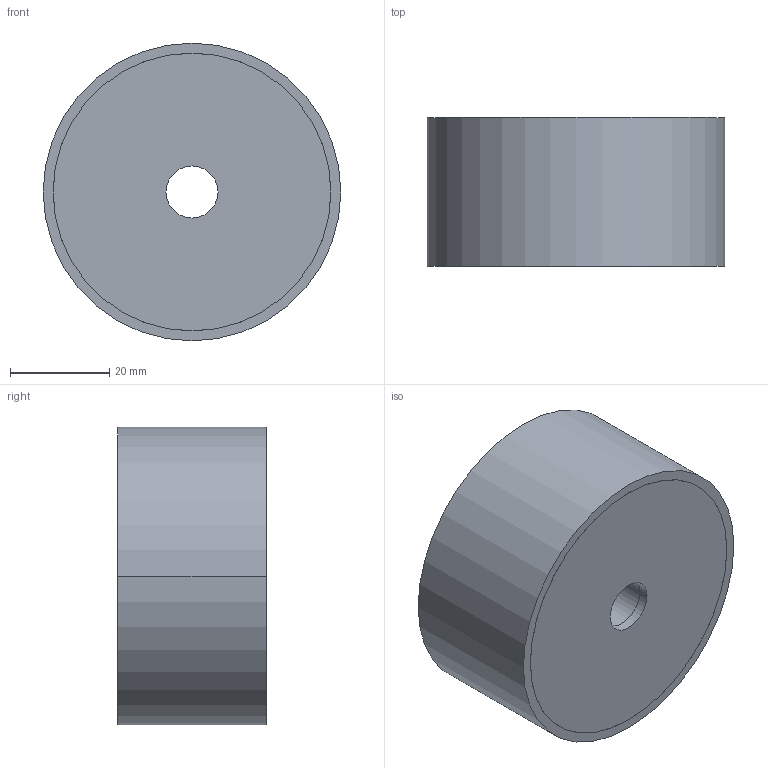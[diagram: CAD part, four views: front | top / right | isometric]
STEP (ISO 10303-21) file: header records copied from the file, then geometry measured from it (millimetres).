
FILE_DESCRIPTION (( 'STEP AP214' ), '1' );
FILE_NAME ('351-60-30-10,5-DD-70.step', '2025-07-23T10:11:51', ( '' ), ( '' ), 'SwSTEP 2.0', 'SolidWorks 2022', '' );
FILE_SCHEMA (( 'AUTOMOTIVE_DESIGN' ));
Length unit declared in the file: millimetre
Products named in the file (1): 351-60-30-10,5-DD-70
Bounding box: 60 x 30 x 60 mm (x, y, z)
Volume: 82225.3 mm3; surface area: 12134.5 mm2
Topology: 1 solids, 1 shells, 30 faces, 60 edges, 40 vertices
Faces by surface type: cylinder 20, plane 10
Entity records: 919 total; most frequent: DIRECTION 162, CARTESIAN_POINT 131, ORIENTED_EDGE 120, AXIS2_PLACEMENT_3D 71, EDGE_CURVE 60, EDGE_LOOP 40, CIRCLE 40, VERTEX_POINT 40
